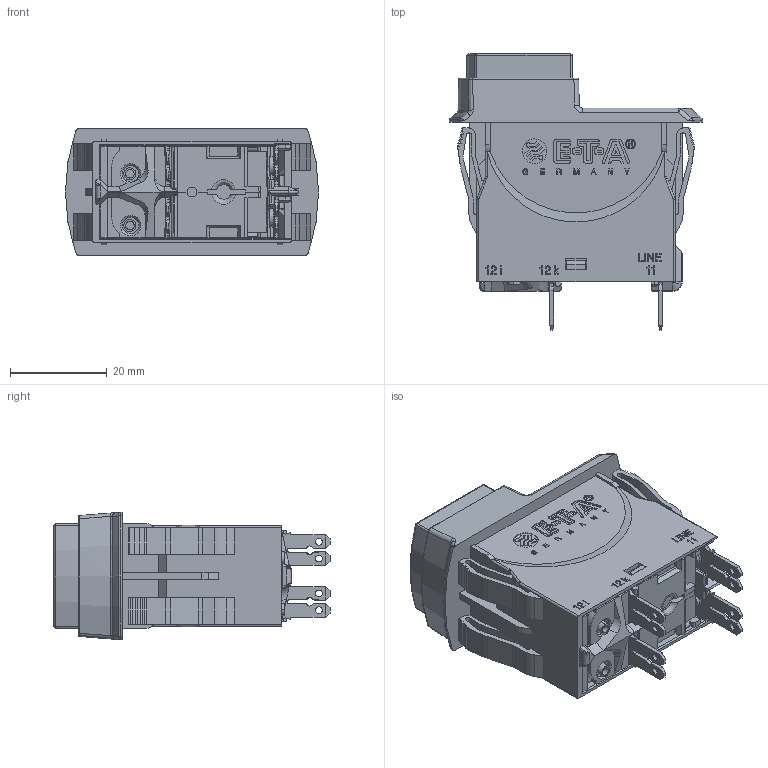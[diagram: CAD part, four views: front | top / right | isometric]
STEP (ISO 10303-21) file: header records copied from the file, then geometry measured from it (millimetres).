
FILE_DESCRIPTION((''),'2;1');
FILE_NAME('DUMMY-3120-N52G-P7','2019-08-06T14:13:08',('wschmidt'),(''),'CREO PARAMETRIC BY PTC INC, 2017260','CREO PARAMETRIC BY PTC INC, 2017260','');
FILE_SCHEMA(('AUTOMOTIVE_DESIGN { 1 0 10303 214 1 1 1 1 }'));
Products named in the file (1): DUMMY-3120-N52G-P7
Bounding box: 52.4 x 57.14 x 26.43 mm (x, y, z)
Volume: 31672 mm3; surface area: 21149.7 mm2
Topology: 1 solids, 1 shells, 1907 faces, 5219 edges, 3385 vertices
Faces by surface type: plane 1129, cylinder 327, extrusion 306, bspline 84, torus 28, sphere 20, cone 13
Entity records: 68381 total; most frequent: CARTESIAN_POINT 21403, ORIENTED_EDGE 10432, DIRECTION 8064, EDGE_CURVE 5216, VECTOR 3958, LINE 3652, VERTEX_POINT 3385, AXIS2_PLACEMENT_3D 2053
